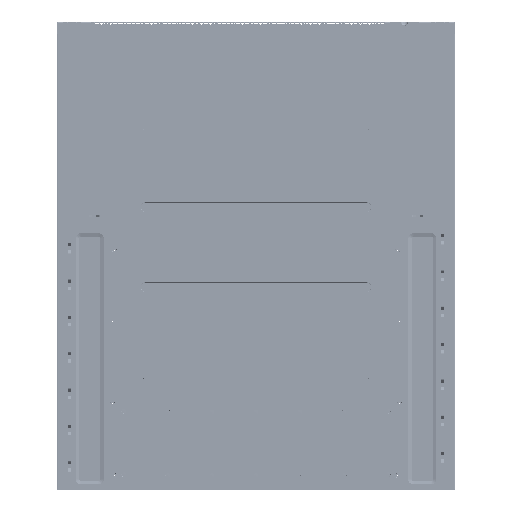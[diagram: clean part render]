
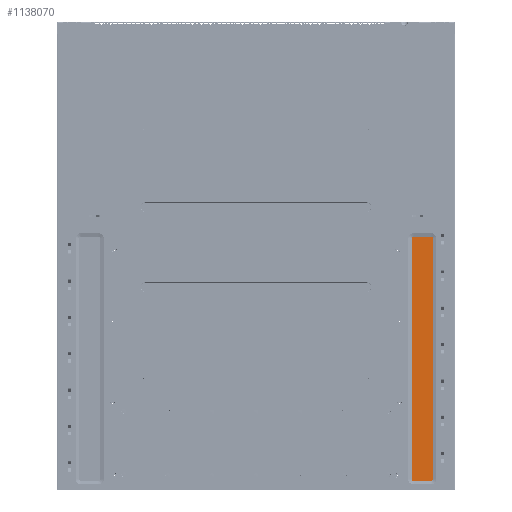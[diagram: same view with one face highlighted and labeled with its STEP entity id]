
A CAD part, front view. The second image highlights one B-rep face of the part: STEP entity #1138070.
In plain terms, the highlighted planar face has unit normal (0, -1, 0).
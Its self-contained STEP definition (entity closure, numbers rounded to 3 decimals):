
#1074580=CARTESIAN_POINT('',(191.7,0.,
-290.126));
#1074590=VERTEX_POINT('',#1074580);
#1074670=CARTESIAN_POINT('',(172.6,0.,
-290.126));
#1074680=VERTEX_POINT('',#1074670);
#1074710=CARTESIAN_POINT('',(191.7,0.,
-290.126));
#1074720=DIRECTION('',(-1.,0.,0.));
#1074730=VECTOR('',#1074720,1.);
#1074740=LINE('',#1074710,#1074730);
#1074750=EDGE_CURVE('',#1074590,#1074680,#1074740,.T.);
#1119790=CARTESIAN_POINT('',(170.464,0.,
-287.99));
#1119800=VERTEX_POINT('',#1119790);
#1119880=CARTESIAN_POINT('',(170.464,0.,
-23.2));
#1119890=VERTEX_POINT('',#1119880);
#1119920=CARTESIAN_POINT('',(170.464,0.,
-287.99));
#1119930=DIRECTION('',(0.,0.,1.));
#1119940=VECTOR('',#1119930,1.);
#1119950=LINE('',#1119920,#1119940);
#1119960=EDGE_CURVE('',#1119800,#1119890,#1119950,.T.);
#1132980=CARTESIAN_POINT('',(172.6,0.,
-287.99));
#1132990=DIRECTION('',(0.,-1.,0.));
#1133000=DIRECTION('',(-1.,0.,0.));
#1133010=AXIS2_PLACEMENT_3D('',#1132980,#1132990,#1133000);
#1133020=CIRCLE('',#1133010,2.136);
#1133030=EDGE_CURVE('',#1119800,#1074680,#1133020,.T.);
#1137560=CARTESIAN_POINT('',(-191.164,0.,
-254.926));
#1137570=DIRECTION('',(0.,1.,0.));
#1137580=DIRECTION('',(-1.,0.,0.));
#1137590=AXIS2_PLACEMENT_3D('',#1137560,#1137570,#1137580);
#1137600=PLANE('',#1137590);
#1137610=CARTESIAN_POINT('',(191.7,0.,
-23.2));
#1137620=DIRECTION('',(0.,-1.,0.));
#1137630=DIRECTION('',(1.,0.,0.));
#1137640=AXIS2_PLACEMENT_3D('',#1137610,#1137620,#1137630);
#1137650=CIRCLE('',#1137640,2.136);
#1137660=CARTESIAN_POINT('',(193.836,0.,
-23.2));
#1137670=VERTEX_POINT('',#1137660);
#1137680=CARTESIAN_POINT('',(191.7,0.,
-21.064));
#1137690=VERTEX_POINT('',#1137680);
#1137700=EDGE_CURVE('',#1137670,#1137690,#1137650,.T.);
#1137710=ORIENTED_EDGE('',*,*,#1137700,.T.);
#1137720=CARTESIAN_POINT('',(193.836,0.,
-23.2));
#1137730=DIRECTION('',(0.,0.,-1.));
#1137740=VECTOR('',#1137730,1.);
#1137750=LINE('',#1137720,#1137740);
#1137760=CARTESIAN_POINT('',(193.836,0.,
-287.99));
#1137770=VERTEX_POINT('',#1137760);
#1137780=EDGE_CURVE('',#1137670,#1137770,#1137750,.T.);
#1137790=ORIENTED_EDGE('',*,*,#1137780,.F.);
#1137800=CARTESIAN_POINT('',(191.7,0.,
-287.99));
#1137810=DIRECTION('',(0.,-1.,0.));
#1137820=DIRECTION('',(0.,0.,
-1.));
#1137830=AXIS2_PLACEMENT_3D('',#1137800,#1137810,#1137820);
#1137840=CIRCLE('',#1137830,2.136);
#1137850=EDGE_CURVE('',#1074590,#1137770,#1137840,.T.);
#1137860=ORIENTED_EDGE('',*,*,#1137850,.T.);
#1137870=ORIENTED_EDGE('',*,*,#1074750,.F.);
#1137880=ORIENTED_EDGE('',*,*,#1133030,.T.);
#1137890=ORIENTED_EDGE('',*,*,#1119960,.F.);
#1137900=CARTESIAN_POINT('',(172.6,0.,
-23.2));
#1137910=DIRECTION('',(0.,-1.,0.));
#1137920=DIRECTION('',(0.,0.,1.));
#1137930=AXIS2_PLACEMENT_3D('',#1137900,#1137910,#1137920);
#1137940=CIRCLE('',#1137930,2.136);
#1137950=CARTESIAN_POINT('',(172.6,0.,
-21.064));
#1137960=VERTEX_POINT('',#1137950);
#1137970=EDGE_CURVE('',#1137960,#1119890,#1137940,.T.);
#1137980=ORIENTED_EDGE('',*,*,#1137970,.T.);
#1137990=CARTESIAN_POINT('',(172.6,0.,
-21.064));
#1138000=DIRECTION('',(1.,0.,0.));
#1138010=VECTOR('',#1138000,1.);
#1138020=LINE('',#1137990,#1138010);
#1138030=EDGE_CURVE('',#1137960,#1137690,#1138020,.T.);
#1138040=ORIENTED_EDGE('',*,*,#1138030,.F.);
#1138050=EDGE_LOOP('',(#1138040,#1137980,#1137890,#1137880,#1137870,
#1137860,#1137790,#1137710));
#1138060=FACE_OUTER_BOUND('',#1138050,.T.);
#1138070=ADVANCED_FACE('',(#1138060),#1137600,.F.);
